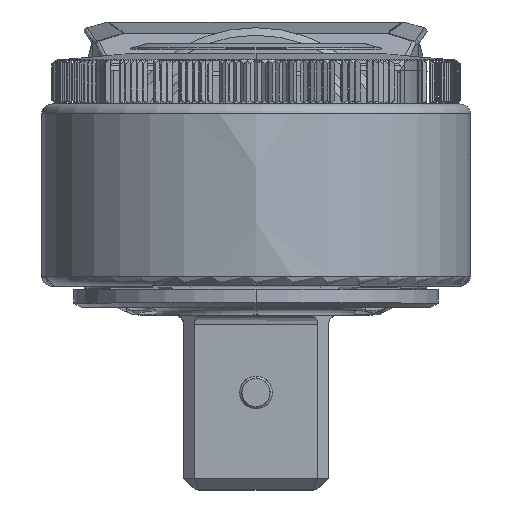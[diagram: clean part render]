
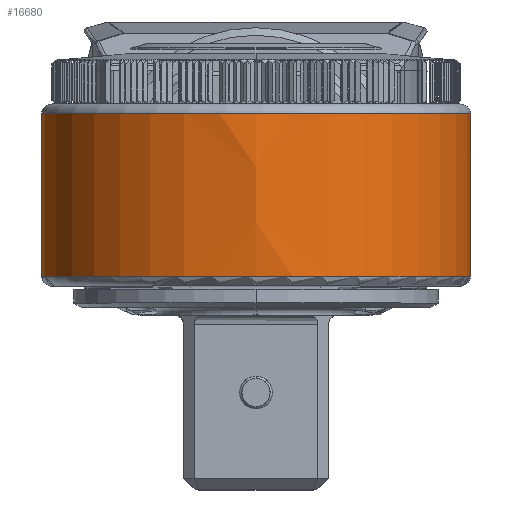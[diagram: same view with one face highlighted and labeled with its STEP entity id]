
A CAD part, top view. The second image highlights one B-rep face of the part: STEP entity #16680.
In plain terms, the highlighted free-form (B-spline) face has degree [3, 3] with [7, 4] control points.
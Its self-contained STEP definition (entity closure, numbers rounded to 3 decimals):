
#16613=CARTESIAN_POINT('',(0.05,25.551,495.5));
#16614=DIRECTION('',(0.,1.,0.));
#16615=DIRECTION('',(-0.885,0.,-0.465));
#16616=AXIS2_PLACEMENT_3D('',#16613,#16614,#16615);
#16618=CARTESIAN_POINT('',(-45.102,14.85,
519.213));
#16619=DIRECTION('',(-0.465,0.,-0.885));
#16620=DIRECTION('',(0.877,0.134,-0.461));
#16621=AXIS2_PLACEMENT_3D('',#16618,#16619,#16620);
#16623=CARTESIAN_POINT('',(0.05,4.149,495.5));
#16624=DIRECTION('',(0.,-1.,0.));
#16625=DIRECTION('',(0.885,0.,-0.465));
#16626=AXIS2_PLACEMENT_3D('',#16623,#16624,#16625);
#16628=CARTESIAN_POINT('',(45.202,14.85,519.213));
#16629=DIRECTION('',(0.465,0.,-0.885));
#16630=DIRECTION('',(-0.877,-0.134,-0.461));
#16631=AXIS2_PLACEMENT_3D('',#16628,#16629,#16630);
#16633=CARTESIAN_POINT('',(-24.988,25.551,
482.35));
#16634=CARTESIAN_POINT('',(25.088,25.551,482.35));
#16635=VERTEX_POINT('',#16633);
#16636=VERTEX_POINT('',#16634);
#16637=CARTESIAN_POINT('',(25.088,4.149,482.35));
#16638=VERTEX_POINT('',#16637);
#16639=CARTESIAN_POINT('',(-24.988,4.149,
482.35));
#16640=VERTEX_POINT('',#16639);
#16641=CARTESIAN_POINT('',(23.875,25.976,480.371));
#16642=CARTESIAN_POINT('',(24.751,18.583,479.814));
#16643=CARTESIAN_POINT('',(24.751,11.117,479.814));
#16644=CARTESIAN_POINT('',(23.875,3.724,480.371));
#16645=CARTESIAN_POINT('',(37.382,25.976,501.641));
#16646=CARTESIAN_POINT('',(38.755,18.583,501.867));
#16647=CARTESIAN_POINT('',(38.755,11.117,501.867));
#16648=CARTESIAN_POINT('',(37.382,3.724,501.641));
#16649=CARTESIAN_POINT('',(25.246,25.976,523.723));
#16650=CARTESIAN_POINT('',(26.173,18.583,524.761));
#16651=CARTESIAN_POINT('',(26.173,11.117,524.761));
#16652=CARTESIAN_POINT('',(25.246,3.724,523.723));
#16653=CARTESIAN_POINT('',(0.05,25.976,
523.723));
#16654=CARTESIAN_POINT('',(0.05,18.583,
524.761));
#16655=CARTESIAN_POINT('',(0.05,11.117,
524.761));
#16656=CARTESIAN_POINT('',(0.05,3.724,
523.723));
#16657=CARTESIAN_POINT('',(-25.146,25.976,
523.723));
#16658=CARTESIAN_POINT('',(-26.073,18.583,
524.761));
#16659=CARTESIAN_POINT('',(-26.073,11.117,
524.761));
#16660=CARTESIAN_POINT('',(-25.146,3.724,
523.723));
#16661=CARTESIAN_POINT('',(-37.282,25.976,
501.641));
#16662=CARTESIAN_POINT('',(-38.655,18.583,
501.867));
#16663=CARTESIAN_POINT('',(-38.655,11.117,
501.867));
#16664=CARTESIAN_POINT('',(-37.282,3.724,
501.641));
#16665=CARTESIAN_POINT('',(-23.775,25.976,
480.371));
#16666=CARTESIAN_POINT('',(-24.651,18.583,
479.814));
#16667=CARTESIAN_POINT('',(-24.651,11.117,
479.814));
#16668=CARTESIAN_POINT('',(-23.775,3.724,
480.371));
#16669=(BOUNDED_SURFACE()B_SPLINE_SURFACE(3,3,((#16641,#16642,#16643,#16644),(
#16645,#16646,#16647,#16648),(#16649,#16650,#16651,#16652),(#16653,#16654,
#16655,#16656),(#16657,#16658,#16659,#16660),(#16661,#16662,#16663,#16664),(
#16665,#16666,#16667,#16668)),.UNSPECIFIED.,.F.,.F.,.F.)B_SPLINE_SURFACE_WITH_KNOTS((4,3,4),(4,4),(0.,1.,2.),(0.,1.),.UNSPECIFIED.)GEOMETRIC_REPRESENTATION_ITEM()RATIONAL_B_SPLINE_SURFACE(((1.356,1.348,
1.348,1.356),(0.888,0.882,
0.882,0.888),(0.888,0.882,
0.882,0.888),(1.356,1.348,
1.348,1.356),(0.888,0.882,
0.882,0.888),(0.888,0.882,
0.882,0.888),(1.356,1.348,
1.348,1.356)))REPRESENTATION_ITEM('')SURFACE());
#16671=ORIENTED_EDGE('',*,*,#16670,.T.);
#16673=ORIENTED_EDGE('',*,*,#16672,.T.);
#16675=ORIENTED_EDGE('',*,*,#16674,.T.);
#16677=ORIENTED_EDGE('',*,*,#16676,.T.);
#16678=EDGE_LOOP('',(#16671,#16673,#16675,#16677));
#16679=FACE_OUTER_BOUND('',#16678,.F.);
#16617=CIRCLE('',#16616,28.281);
#16622=CIRCLE('',#16621,80.);
#16627=CIRCLE('',#16626,28.281);
#16632=CIRCLE('',#16631,80.);
#16670=EDGE_CURVE('',#16635,#16636,#16617,.T.);
#16672=EDGE_CURVE('',#16636,#16638,#16622,.T.);
#16674=EDGE_CURVE('',#16638,#16640,#16627,.T.);
#16676=EDGE_CURVE('',#16640,#16635,#16632,.T.);
#16680=ADVANCED_FACE('',(#16679),#16669,.T.);
